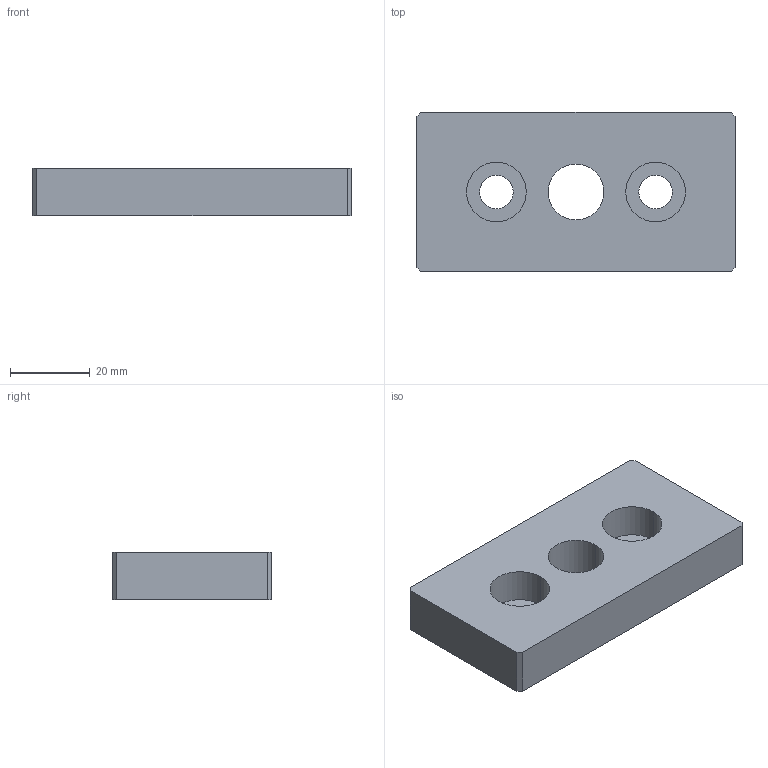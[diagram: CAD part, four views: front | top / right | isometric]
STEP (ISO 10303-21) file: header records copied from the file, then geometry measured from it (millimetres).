
FILE_DESCRIPTION (( 'STEP AP203' ), '1' );
FILE_NAME ('PF4080.STEP', '2024-02-19T06:35:54', ( '' ), ( '' ), 'SwSTEP 2.0', 'SolidWorks 2022', '' );
FILE_SCHEMA (( 'CONFIG_CONTROL_DESIGN' ));
Length unit declared in the file: millimetre
Products named in the file (1): PF4080
Bounding box: 80 x 40 x 12 mm (x, y, z)
Volume: 33112.4 mm3; surface area: 10236.1 mm2
Topology: 1 solids, 1 shells, 22 faces, 54 edges, 36 vertices
Faces by surface type: plane 12, cylinder 10
Entity records: 747 total; most frequent: DIRECTION 120, CARTESIAN_POINT 113, ORIENTED_EDGE 108, EDGE_CURVE 54, AXIS2_PLACEMENT_3D 43, VERTEX_POINT 36, LINE 34, VECTOR 34
